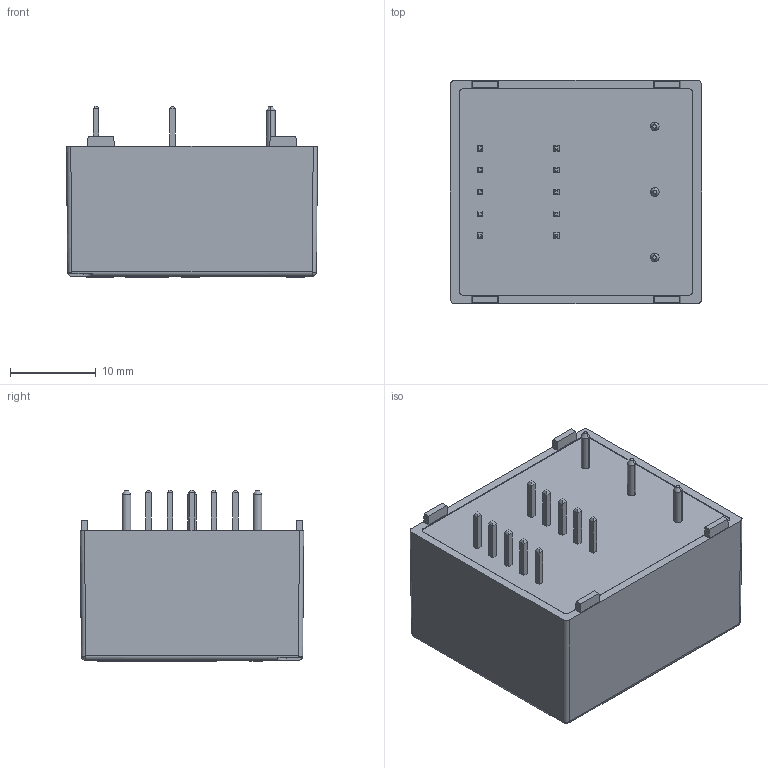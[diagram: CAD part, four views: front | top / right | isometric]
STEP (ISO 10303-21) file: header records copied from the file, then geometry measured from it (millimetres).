
FILE_DESCRIPTION(('Creo Elements/Direct Modeling STEP Export'),'2;1');
FILE_NAME('LA 35-NP Black box.stp','2014-01-06T14:23:43',(''),(''),'Creo Elements/Direct Modeling STEP processor for AP214 (Solid Model)','Creo Elements/Direct Modeling 17.0C 05-Feb-2011 (C) Parametric Technology GmbH','');
FILE_SCHEMA(('AUTOMOTIVE_DESIGN { 1 0 10303 214 1 1 1 1 }'));
Length unit declared in the file: millimetre
Products named in the file (2): LA35-NP_blackbox
Assembly tree (1 placements, depth 2):
  LA35-NP_blackbox
    LA35-NP_blackbox
Bounding box: 29.2 x 26 x 20 mm (x, y, z)
Volume: 11324.1 mm3; surface area: 3359.2 mm2
Topology: 1 solids, 1 shells, 409 faces, 1041 edges, 673 vertices
Faces by surface type: plane 364, cylinder 35, cone 6, sphere 4
Entity records: 12778 total; most frequent: CARTESIAN_POINT 2088, ORIENTED_EDGE 2076, DIRECTION 1871, EDGE_CURVE 1038, VECTOR 959, LINE 959, VERTEX_POINT 673, AXIS2_PLACEMENT_3D 456
